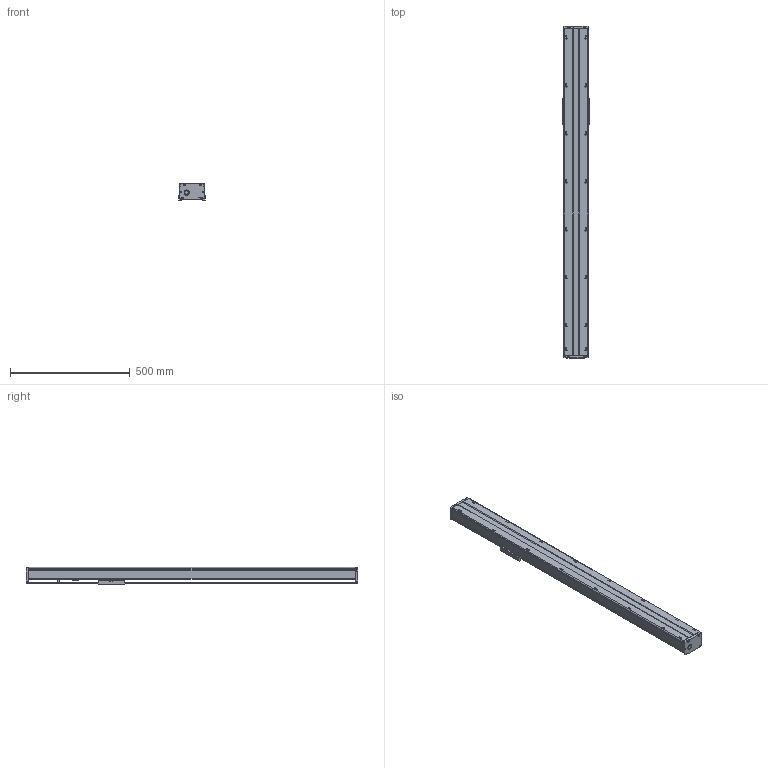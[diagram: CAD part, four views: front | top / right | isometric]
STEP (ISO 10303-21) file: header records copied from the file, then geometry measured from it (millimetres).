
FILE_DESCRIPTION(/* description */ (''),/* implementation_level */ '2;1');
FILE_NAME(/* name */ 'TKA100-1000A1FI_asm1.stp',/* time_stamp */ '2017-02-21T09:04:03+08:00',/* author */ (''),/* organization */ (''),/* preprocessor_version */ 'ST-DEVELOPER v15',/* originating_system */ 'SIEMENS PLM Software NX 8.5',/* authorisation */ '');
FILE_SCHEMA (('AUTOMOTIVE_DESIGN { 1 0 10303 214 3 1 1 1 }'));
Length unit declared in the file: millimetre
Products named in the file (3): 200-02; 200-01; TKA100-1000A1FI_asm1_stp
Assembly tree (2 placements, depth 2):
  TKA100-1000A1FI_asm1_stp
    200-01
    200-02
Bounding box: 110 x 1384 x 71 mm (x, y, z)
Volume: 2798545.3 mm3; surface area: 916175.7 mm2
Topology: 2 solids, 9 shells, 879 faces, 2280 edges, 1447 vertices
Faces by surface type: plane 363, cylinder 303, cone 153, torus 34, bspline 26
Full cylindrical faces by diameter (mm): 2.5 x4, 2.6 x8, 3.3 x8, 3.4 x4, 3.8 x4, 4.2 x25, 4.3 x4, 4.5 x4, 5 x1, 5.5 x28, 6.6 x4, 8 x5, 9 x4, 10 x16, 11 x4, 12 x7, 15.3 x1, 16 x1, 22 x1, 24 x1, 28 x5, 30 x1
Entity records: 31114 total; most frequent: CARTESIAN_POINT 10700, DIRECTION 4242, ORIENTED_EDGE 3938, EDGE_CURVE 1969, AXIS2_PLACEMENT_3D 1648, VERTEX_POINT 1364, EDGE_LOOP 1197, LINE 946
